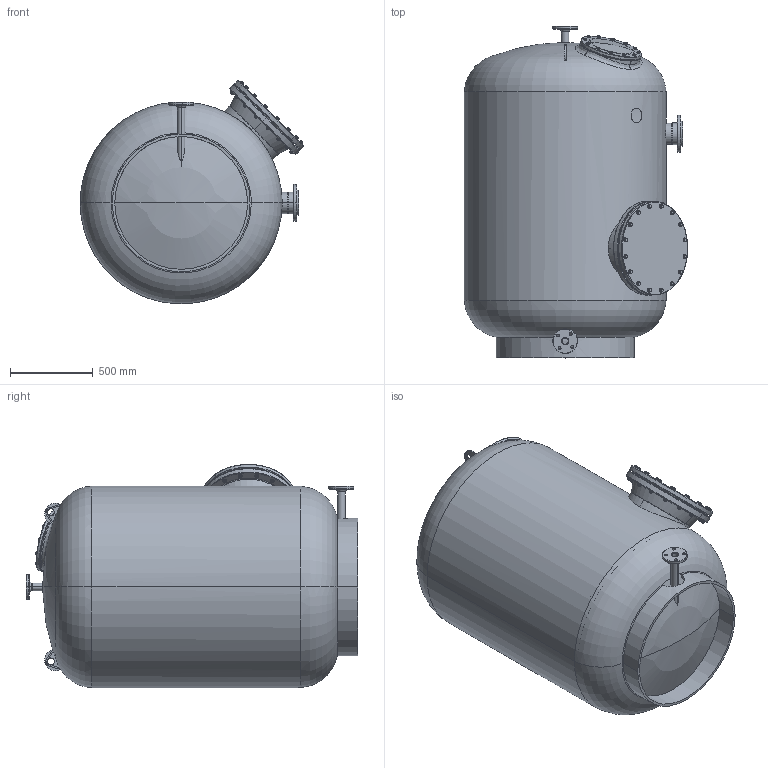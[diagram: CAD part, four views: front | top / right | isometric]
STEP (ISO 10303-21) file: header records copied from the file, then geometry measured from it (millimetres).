
FILE_DESCRIPTION (( 'STEP AP214' ), '1' );
FILE_NAME ('adriatic120c_sb1000.STEP', '2020-11-04T09:13:52', ( '' ), ( '' ), 'SwSTEP 2.0', 'SolidWorks 2019', '' );
FILE_SCHEMA (( 'AUTOMOTIVE_DESIGN' ));
Length unit declared in the file: millimetre
Products named in the file (1): adriatic120c_sb1000
Bounding box: 1346.29 x 1999.76 x 1344.99 mm (x, y, z)
Surface area: 18889229.1 mm2 (no closed solid volume)
Topology: 0 solids, 117 shells, 1774 faces, 3943 edges, 2410 vertices
Faces by surface type: cone 581, cylinder 566, plane 528, torus 73, sphere 14, bspline 12
Entity records: 99370 total; most frequent: CARTESIAN_POINT 40563, DIRECTION 7768, ORIENTED_EDGE 7766, EDGE_CURVE 3907, AXIS2_PLACEMENT_3D 3345, VERTEX_POINT 2406, EDGE_LOOP 2135, UNCERTAINTY_MEASURE_WITH_UNIT 1881
